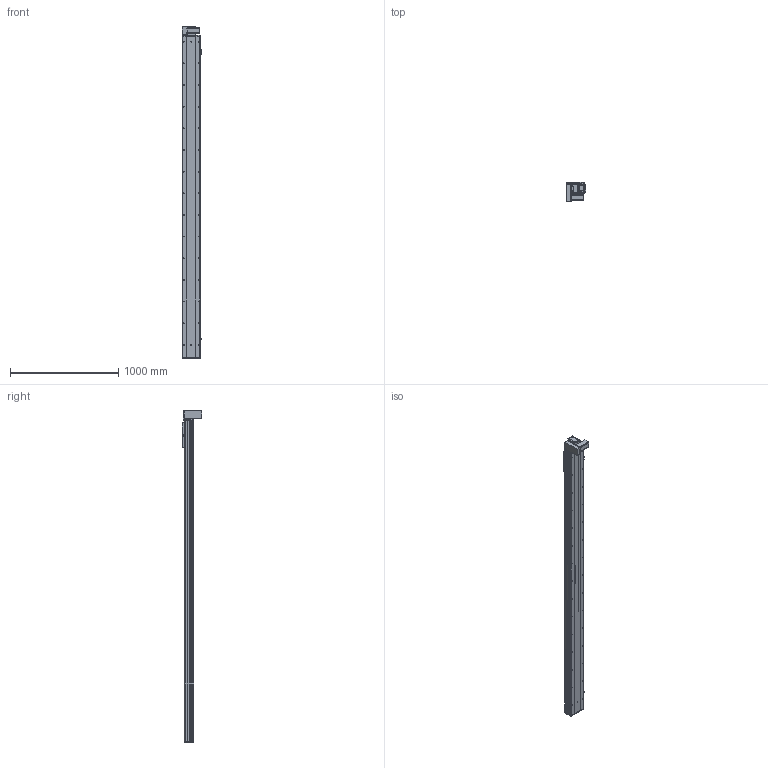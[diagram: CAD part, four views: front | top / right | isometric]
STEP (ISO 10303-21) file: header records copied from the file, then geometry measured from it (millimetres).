
FILE_DESCRIPTION (( 'STEP AP203' ), '1' );
FILE_NAME ('Y170CB-D105-S2650-BR-P400W.STEP', '2020-02-20T07:46:56', ( '微软用户' ), ( '微软中国' ), 'SwSTEP 2.0', 'SolidWorks 2017', '' );
FILE_SCHEMA (( 'CONFIG_CONTROL_DESIGN' ));
Length unit declared in the file: millimetre
Products named in the file (18): 17B-耜蚾蟀諉啣----; 70C--詩湍揤踡え-; 00B-俋欶BM--163; 70CB--耜裔; 70B喘謫眊----; 70C-雄赽釱-奻-; B-源倛裔啣; Y170CB-D105-S2650-BR-P400W; 0C--雄赽釱俋欶-170; 0B-萇儂楊擘啣; 70CB-詩湍--; san松下电机400不带刹车----; Y100-135俋离換覜ん--; 70CB-掛极-; Y170CB-陔俋离換覜結え---; --70CB --喘謫眊楊擘啣-; Y1埴倛裔; 70CB-耜裔啣-
Assembly tree (21 placements, depth 2):
  Y170CB-D105-S2650-BR-P400W
    B-源倛裔啣
    0B-萇儂楊擘啣
    san松下电机400不带刹车----
    70CB-掛极-
    --70CB --喘謫眊楊擘啣-
    70CB-耜裔啣-  x2
    70C--詩湍揤踡え-  x2
    70CB--耜裔
    70C-雄赽釱-奻-
    0C--雄赽釱俋欶-170
    70CB-詩湍--
    Y100-135俋离換覜ん--  x3
    Y170CB-陔俋离換覜結え---
    Y1埴倛裔
    17B-耜蚾蟀諉啣----
    00B-俋欶BM--163
    70B喘謫眊----
Bounding box: 183.5 x 184 x 3066 mm (x, y, z)
Volume: 13036502.5 mm3; surface area: 4709130.1 mm2
Topology: 21 solids, 21 shells, 1071 faces, 2885 edges, 1914 vertices
Faces by surface type: cylinder 585, plane 462, cone 24
Entity records: 34372 total; most frequent: CARTESIAN_POINT 6336, DIRECTION 5594, ORIENTED_EDGE 5252, EDGE_CURVE 2626, AXIS2_PLACEMENT_3D 2068, VERTEX_POINT 1744, VECTOR 1458, LINE 1458
